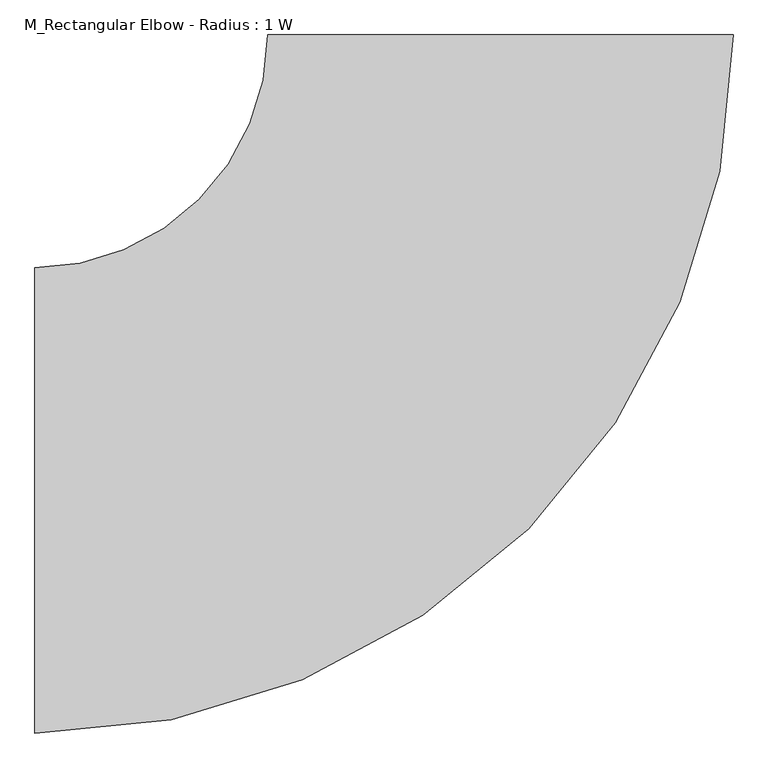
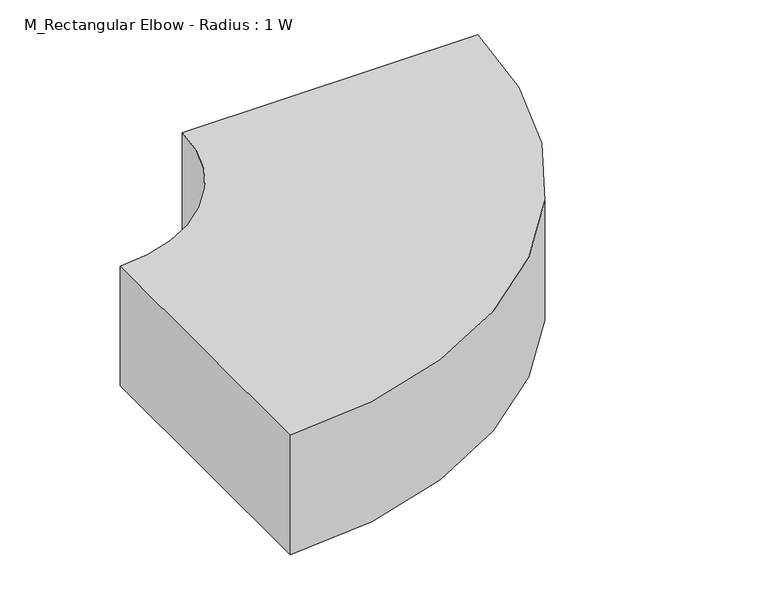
"""IFC4 building model written with IfcOpenShell, lengths in millimetres: duct fitting geometry, M_Rectangular Elbow - Radius : 1 W."""

from ifc_helpers import new_model, si_unit, point, frame, frame_2d, origin, place, context, project, spatial, polyline, circle_curve, trimmed, segment, composite_curve, outline, extrude, source, transform, mapped, element, save


def m_rectangular_elbow_radius_1_w_8a62b27e(model_context):
    return source(origin(), model_context, "Body", "SweptSolid", [
        extrude(outline(composite_curve([segment(trimmed(circle_curve(frame_2d((-700.0, 700.0)), 1050.0), [point((350.0, 700.0))], [point((-700.0, -350.0))], False, "CARTESIAN"), True, "CONTINUOUS"), segment(polyline([(-700.0, -350.0), (-700.0, 350.0)]), True, "CONTINUOUS"), segment(trimmed(circle_curve(frame_2d((-700.0, 700.0)), 350.0), [point((-700.0, 350.0))], [point((-350.0, 700.0))], True, "CARTESIAN"), True, "CONTINUOUS"), segment(polyline([(-350.0, 700.0), (350.0, 700.0)]), True, "CONTINUOUS")], self_intersect=False)), frame((0.0, 0.0, -150.0), z_axis=(0.0, 0.0, 1.0), x_axis=(1.0, 0.0, 0.0)), (0.0, 0.0, 1.0), 300.0),
    ])


if __name__ == "__main__":
    model = new_model("IFC4")
    model_context = context("Model", 3, world=origin())
    ifc_project = project(units=[si_unit("LENGTHUNIT", "METRE", prefix="MILLI")], contexts=[model_context])
    site = spatial("IfcSite", under=ifc_project)
    building = spatial("IfcBuilding", under=site)
    placement = place(None, origin())
    m_rectangular_elbow_radius_1_w_shape = m_rectangular_elbow_radius_1_w_8a62b27e(model_context)
    element("IfcDuctFitting", 1, ObjectType="M_Rectangular Elbow - Radius : 1 W", at=placement, inside=building, context=model_context, shape_type="MappedRepresentation", body=[
        mapped(m_rectangular_elbow_radius_1_w_shape, transform((0.0, 0.0, 0.0), x_axis=(1.0, 0.0, 0.0), y_axis=(0.0, 1.0, 0.0), z_axis=(0.0, 0.0, 1.0))),
    ])
    save(model, "model.ifc")
